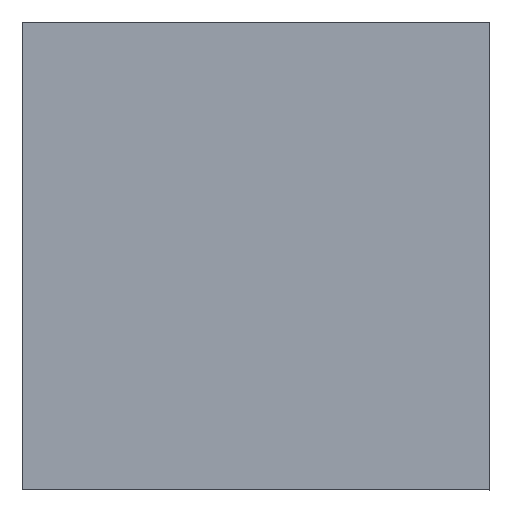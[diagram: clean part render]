
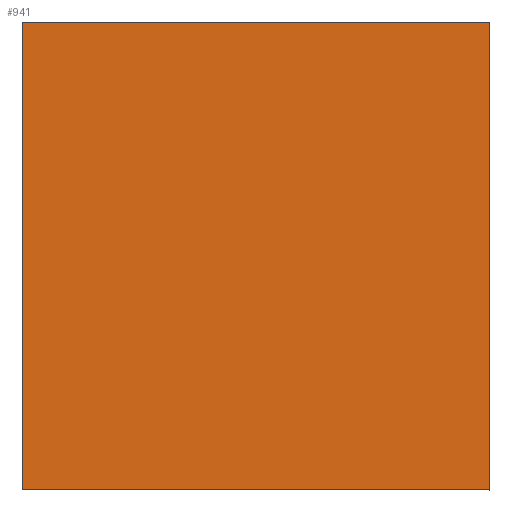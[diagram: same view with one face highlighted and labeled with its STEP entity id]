
A CAD part, top view. The second image highlights one B-rep face of the part: STEP entity #941.
In plain terms, the highlighted planar face has unit normal (0, 0, 1).
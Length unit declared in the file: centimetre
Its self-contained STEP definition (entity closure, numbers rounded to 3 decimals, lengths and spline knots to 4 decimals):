
#26 = CARTESIAN_POINT ( 'NONE',  ( 1000., 1000., 1000. ) ) ;
#31 = VECTOR ( 'NONE', #156, 100. ) ;
#32 = VECTOR ( 'NONE', #570, 100. ) ;
#58 = VERTEX_POINT ( 'NONE', #631 ) ;
#65 = ORIENTED_EDGE ( 'NONE', *, *, #145, .T. ) ;
#74 = DIRECTION ( 'NONE',  ( 0., 0., 1. ) ) ;
#99 = VECTOR ( 'NONE', #775, 100. ) ;
#119 = VERTEX_POINT ( 'NONE', #867 ) ;
#145 = EDGE_CURVE ( 'NONE', #119, #1131, #225, .T. ) ;
#156 = DIRECTION ( 'NONE',  ( -1., 0., 0. ) ) ;
#225 = LINE ( 'NONE', #325, #99 ) ;
#268 = AXIS2_PLACEMENT_3D ( 'NONE', #342, #74, #1098 ) ;
#325 = CARTESIAN_POINT ( 'NONE',  ( 0., 1000., 1000. ) ) ;
#342 = CARTESIAN_POINT ( 'NONE',  ( 0., 0., 1000. ) ) ;
#435 = VERTEX_POINT ( 'NONE', #788 ) ;
#439 = FACE_OUTER_BOUND ( 'NONE', #1095, .T. ) ;
#533 = LINE ( 'NONE', #1105, #31 ) ;
#547 = ORIENTED_EDGE ( 'NONE', *, *, #713, .T. ) ;
#555 = LINE ( 'NONE', #26, #656 ) ;
#570 = DIRECTION ( 'NONE',  ( 1., 0., 0. ) ) ;
#573 = ORIENTED_EDGE ( 'NONE', *, *, #1045, .T. ) ;
#631 = CARTESIAN_POINT ( 'NONE',  ( 1000., 0., 1000. ) ) ;
#648 = DIRECTION ( 'NONE',  ( 0., 1., 0. ) ) ;
#656 = VECTOR ( 'NONE', #648, 100. ) ;
#706 = EDGE_CURVE ( 'NONE', #1131, #58, #1129, .T. ) ;
#707 = PLANE ( 'NONE',  #268 ) ;
#713 = EDGE_CURVE ( 'NONE', #58, #435, #555, .T. ) ;
#775 = DIRECTION ( 'NONE',  ( 0., -1., 0. ) ) ;
#788 = CARTESIAN_POINT ( 'NONE',  ( 1000., 1000., 1000. ) ) ;
#867 = CARTESIAN_POINT ( 'NONE',  ( 0., 1000., 1000. ) ) ;
#895 = ORIENTED_EDGE ( 'NONE', *, *, #706, .T. ) ;
#919 = CARTESIAN_POINT ( 'NONE',  ( 0., 0., 1000. ) ) ;
#941 = ADVANCED_FACE ( 'NONE', ( #439 ), #707, .T. ) ;
#1028 = CARTESIAN_POINT ( 'NONE',  ( 0., 0., 1000. ) ) ;
#1045 = EDGE_CURVE ( 'NONE', #435, #119, #533, .T. ) ;
#1095 = EDGE_LOOP ( 'NONE', ( #65, #895, #547, #573 ) ) ;
#1098 = DIRECTION ( 'NONE',  ( 1., 0., 0. ) ) ;
#1105 = CARTESIAN_POINT ( 'NONE',  ( 0., 1000., 1000. ) ) ;
#1129 = LINE ( 'NONE', #1028, #32 ) ;
#1131 = VERTEX_POINT ( 'NONE', #919 ) ;
